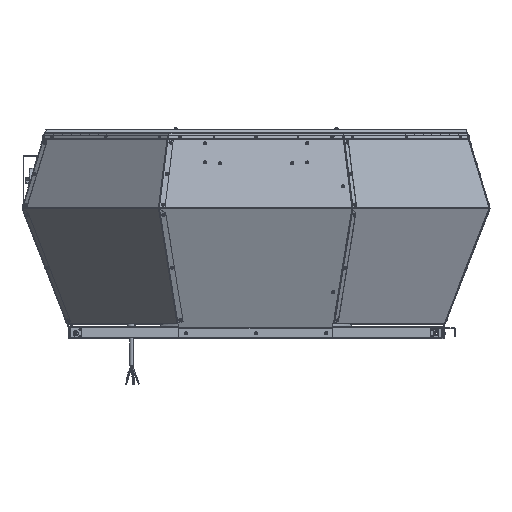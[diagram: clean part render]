
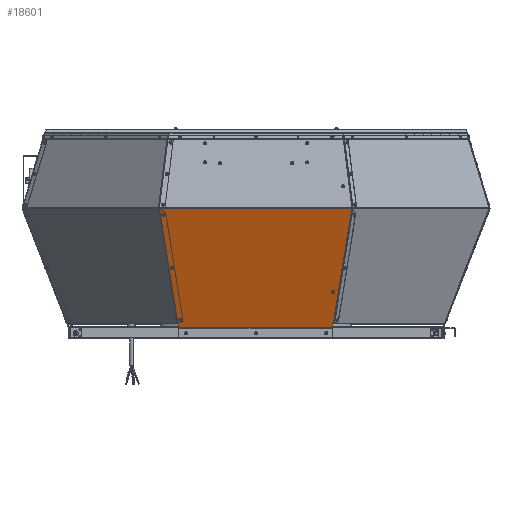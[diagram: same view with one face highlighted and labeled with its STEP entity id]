
A CAD part, top view. The second image highlights one B-rep face of the part: STEP entity #18601.
In plain terms, the highlighted planar face has unit normal (0, -0.362, 0.932).
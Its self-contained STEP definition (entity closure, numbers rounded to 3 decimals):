
#5218 = DIRECTION ( 'NONE',  ( 0., 0.932, 0.362 ) ) ;
#5221 = DIRECTION ( 'NONE',  ( 0., 0.362, -0.932 ) ) ;
#5235 = CARTESIAN_POINT ( 'NONE',  ( 240.82, 299.784, 582.628 ) ) ;
#5252 = PLANE ( 'NONE',  #103892 ) ;
#5333 = CARTESIAN_POINT ( 'NONE',  ( 238.407, 298.935, 582.298 ) ) ;
#6261 = CARTESIAN_POINT ( 'NONE',  ( -188.422, 22.769, 474.903 ) ) ;
#8466 = CARTESIAN_POINT ( 'NONE',  ( 190.117, 2.287, 466.938 ) ) ;
#8618 = CARTESIAN_POINT ( 'NONE',  ( -230.586, 280.612, 575.172 ) ) ;
#9002 = LINE ( 'NONE', #97878, #9008 ) ;
#9008 = VECTOR ( 'NONE', #97857, 1000. ) ;
#9332 = CARTESIAN_POINT ( 'NONE',  ( -193.022, 2.287, 466.938 ) ) ;
#9419 = CARTESIAN_POINT ( 'NONE',  ( -240.82, 299.018, 582.33 ) ) ;
#9541 = CARTESIAN_POINT ( 'NONE',  ( 238.341, 299.009, 582.326 ) ) ;
#18059 = VERTEX_POINT ( 'NONE', #142052 ) ;
#18334 = VERTEX_POINT ( 'NONE', #142895 ) ;
#18405 = VERTEX_POINT ( 'NONE', #5333 ) ;
#18601 = ADVANCED_FACE ( 'NONE', ( #190816, #190807, #190823, #190792, #190829 ), #5252, .F. ) ;
#19220 = VERTEX_POINT ( 'NONE', #179585 ) ;
#47233 = EDGE_LOOP ( 'NONE', ( #58705, #58644 ) ) ;
#47635 = EDGE_LOOP ( 'NONE', ( #57902, #57827 ) ) ;
#47772 = EDGE_LOOP ( 'NONE', ( #58370, #58362, #58345, #58490, #58396, #58287, #58506, #58605 ) ) ;
#47829 = EDGE_LOOP ( 'NONE', ( #58352, #58385 ) ) ;
#54977 = CIRCLE ( 'NONE', #189827, 2.1 ) ;
#55101 = LINE ( 'NONE', #158491, #55107 ) ;
#55107 = VECTOR ( 'NONE', #158467, 1000. ) ;
#55114 = LINE ( 'NONE', #158510, #55127 ) ;
#55127 = VECTOR ( 'NONE', #158524, 1000. ) ;
#55187 = LINE ( 'NONE', #158675, #55191 ) ;
#55191 = VECTOR ( 'NONE', #158677, 1000. ) ;
#55401 = CIRCLE ( 'NONE', #190071, 2.1 ) ;
#55470 = CIRCLE ( 'NONE', #190097, 2.1 ) ;
#55474 = CIRCLE ( 'NONE', #190095, 2.1 ) ;
#55487 = CIRCLE ( 'NONE', #190108, 2.1 ) ;
#55512 = LINE ( 'NONE', #113248, #55517 ) ;
#55517 = VECTOR ( 'NONE', #113249, 1000. ) ;
#55544 = CIRCLE ( 'NONE', #190146, 2.1 ) ;
#55568 = LINE ( 'NONE', #113306, #55570 ) ;
#55570 = VECTOR ( 'NONE', #113307, 1000. ) ;
#55598 = CIRCLE ( 'NONE', #190176, 2.1 ) ;
#55637 = LINE ( 'NONE', #113451, #55643 ) ;
#55643 = VECTOR ( 'NONE', #113454, 1000. ) ;
#55647 = LINE ( 'NONE', #113629, #55709 ) ;
#55709 = VECTOR ( 'NONE', #113634, 1000. ) ;
#55742 = CIRCLE ( 'NONE', #190217, 2.1 ) ;
#57827 = ORIENTED_EDGE ( 'NONE', *, *, #144281, .F. ) ;
#57902 = ORIENTED_EDGE ( 'NONE', *, *, #144134, .F. ) ;
#58180 = ORIENTED_EDGE ( 'NONE', *, *, #143697, .T. ) ;
#58287 = ORIENTED_EDGE ( 'NONE', *, *, #143861, .F. ) ;
#58345 = ORIENTED_EDGE ( 'NONE', *, *, #143813, .F. ) ;
#58347 = ORIENTED_EDGE ( 'NONE', *, *, #144088, .T. ) ;
#58352 = ORIENTED_EDGE ( 'NONE', *, *, #144077, .F. ) ;
#58362 = ORIENTED_EDGE ( 'NONE', *, *, #143802, .F. ) ;
#58370 = ORIENTED_EDGE ( 'NONE', *, *, #144210, .F. ) ;
#58385 = ORIENTED_EDGE ( 'NONE', *, *, #144075, .F. ) ;
#58396 = ORIENTED_EDGE ( 'NONE', *, *, #144259, .F. ) ;
#58490 = ORIENTED_EDGE ( 'NONE', *, *, #144150, .T. ) ;
#58506 = ORIENTED_EDGE ( 'NONE', *, *, #143603, .T. ) ;
#58605 = ORIENTED_EDGE ( 'NONE', *, *, #144112, .F. ) ;
#58644 = ORIENTED_EDGE ( 'NONE', *, *, #144190, .F. ) ;
#58705 = ORIENTED_EDGE ( 'NONE', *, *, #144035, .F. ) ;
#67236 = CARTESIAN_POINT ( 'NONE',  ( -188.422, 20.812, 474.142 ) ) ;
#67240 = DIRECTION ( 'NONE',  ( 0., -0.362, 0.932 ) ) ;
#67242 = DIRECTION ( 'NONE',  ( 0., -0.932, -0.362 ) ) ;
#97857 = DIRECTION ( 'NONE',  ( -1., 0., 0. ) ) ;
#97878 = CARTESIAN_POINT ( 'NONE',  ( 240.82, 299.018, 582.33 ) ) ;
#101745 = EDGE_LOOP ( 'NONE', ( #58347, #58180 ) ) ;
#103892 = AXIS2_PLACEMENT_3D ( 'NONE', #5235, #5221, #5218 ) ;
#107471 = VERTEX_POINT ( 'NONE', #8466 ) ;
#107591 = VERTEX_POINT ( 'NONE', #8618 ) ;
#108592 = VERTEX_POINT ( 'NONE', #9332 ) ;
#108689 = VERTEX_POINT ( 'NONE', #9419 ) ;
#108787 = VERTEX_POINT ( 'NONE', #9541 ) ;
#109043 = VERTEX_POINT ( 'NONE', #162369 ) ;
#109734 = VERTEX_POINT ( 'NONE', #163220 ) ;
#110040 = VERTEX_POINT ( 'NONE', #163579 ) ;
#110203 = VERTEX_POINT ( 'NONE', #6261 ) ;
#113138 = CARTESIAN_POINT ( 'NONE',  ( -230.586, 282.569, 575.933 ) ) ;
#113139 = DIRECTION ( 'NONE',  ( 0., -0.362, 0.932 ) ) ;
#113140 = DIRECTION ( 'NONE',  ( 0., -0.932, -0.362 ) ) ;
#113190 = CARTESIAN_POINT ( 'NONE',  ( -209.504, 151.691, 525.037 ) ) ;
#113191 = DIRECTION ( 'NONE',  ( 0., -0.362, 0.932 ) ) ;
#113192 = DIRECTION ( 'NONE',  ( 0., -0.932, -0.362 ) ) ;
#113193 = CARTESIAN_POINT ( 'NONE',  ( -209.504, 151.691, 525.037 ) ) ;
#113194 = DIRECTION ( 'NONE',  ( 0., -0.362, 0.932 ) ) ;
#113195 = DIRECTION ( 'NONE',  ( 0., -0.932, -0.362 ) ) ;
#113214 = CARTESIAN_POINT ( 'NONE',  ( 191.739, 90.828, 501.369 ) ) ;
#113215 = DIRECTION ( 'NONE',  ( 0., 0.362, -0.932 ) ) ;
#113216 = DIRECTION ( 'NONE',  ( 0., 0.932, 0.362 ) ) ;
#113248 = CARTESIAN_POINT ( 'NONE',  ( -193.022, 2.287, 466.938 ) ) ;
#113249 = DIRECTION ( 'NONE',  ( -0.148, 0.922, 0.358 ) ) ;
#113281 = CARTESIAN_POINT ( 'NONE',  ( -188.422, 20.812, 474.142 ) ) ;
#113282 = DIRECTION ( 'NONE',  ( 0., -0.362, 0.932 ) ) ;
#113283 = DIRECTION ( 'NONE',  ( 0., -0.932, -0.362 ) ) ;
#113306 = CARTESIAN_POINT ( 'NONE',  ( 190.675, 2.616, 467.065 ) ) ;
#113307 = DIRECTION ( 'NONE',  ( 0.148, 0.922, 0.358 ) ) ;
#113389 = CARTESIAN_POINT ( 'NONE',  ( -230.586, 282.569, 575.933 ) ) ;
#113390 = DIRECTION ( 'NONE',  ( 0., -0.362, 0.932 ) ) ;
#113392 = DIRECTION ( 'NONE',  ( 0., -0.932, -0.362 ) ) ;
#113451 = CARTESIAN_POINT ( 'NONE',  ( 240.82, 2.287, 466.938 ) ) ;
#113454 = DIRECTION ( 'NONE',  ( -1., 0., 0. ) ) ;
#113629 = CARTESIAN_POINT ( 'NONE',  ( 238.341, 299.009, 582.326 ) ) ;
#113634 = DIRECTION ( 'NONE',  ( 0.636, -0.72, -0.28 ) ) ;
#142052 = CARTESIAN_POINT ( 'NONE',  ( 191.739, 88.871, 500.608 ) ) ;
#142210 = CARTESIAN_POINT ( 'NONE',  ( -230.586, 284.526, 576.694 ) ) ;
#142895 = CARTESIAN_POINT ( 'NONE',  ( 238.341, 299.018, 582.33 ) ) ;
#143603 = EDGE_CURVE ( 'NONE', #18334, #108689, #9002, .T. ) ;
#143697 = EDGE_CURVE ( 'NONE', #18059, #194340, #54977, .T. ) ;
#143802 = EDGE_CURVE ( 'NONE', #110040, #107471, #55101, .T. ) ;
#143813 = EDGE_CURVE ( 'NONE', #19220, #110040, #55114, .T. ) ;
#143861 = EDGE_CURVE ( 'NONE', #18334, #108787, #55187, .T. ) ;
#144035 = EDGE_CURVE ( 'NONE', #107591, #191305, #55401, .T. ) ;
#144075 = EDGE_CURVE ( 'NONE', #109734, #191634, #55474, .T. ) ;
#144077 = EDGE_CURVE ( 'NONE', #191634, #109734, #55470, .T. ) ;
#144088 = EDGE_CURVE ( 'NONE', #194340, #18059, #55487, .T. ) ;
#144112 = EDGE_CURVE ( 'NONE', #108592, #108689, #55512, .T. ) ;
#144134 = EDGE_CURVE ( 'NONE', #109043, #110203, #55544, .T. ) ;
#144150 = EDGE_CURVE ( 'NONE', #19220, #18405, #55568, .T. ) ;
#144190 = EDGE_CURVE ( 'NONE', #191305, #107591, #55598, .T. ) ;
#144210 = EDGE_CURVE ( 'NONE', #107471, #108592, #55637, .T. ) ;
#144259 = EDGE_CURVE ( 'NONE', #108787, #18405, #55647, .T. ) ;
#144281 = EDGE_CURVE ( 'NONE', #110203, #109043, #55742, .T. ) ;
#158202 = CARTESIAN_POINT ( 'NONE',  ( 191.739, 90.828, 501.369 ) ) ;
#158203 = DIRECTION ( 'NONE',  ( 0., 0.362, -0.932 ) ) ;
#158204 = DIRECTION ( 'NONE',  ( 0., 0.932, 0.362 ) ) ;
#158467 = DIRECTION ( 'NONE',  ( 0., -0.932, -0.362 ) ) ;
#158491 = CARTESIAN_POINT ( 'NONE',  ( 190.117, -21.935, 457.518 ) ) ;
#158510 = CARTESIAN_POINT ( 'NONE',  ( 190.117, 13.388, 471.255 ) ) ;
#158524 = DIRECTION ( 'NONE',  ( -1., 0., 0. ) ) ;
#158675 = CARTESIAN_POINT ( 'NONE',  ( 238.341, 299.009, 582.326 ) ) ;
#158677 = DIRECTION ( 'NONE',  ( 0., -0.932, -0.362 ) ) ;
#162369 = CARTESIAN_POINT ( 'NONE',  ( -188.422, 18.855, 473.38 ) ) ;
#163220 = CARTESIAN_POINT ( 'NONE',  ( -209.504, 153.648, 525.799 ) ) ;
#163579 = CARTESIAN_POINT ( 'NONE',  ( 190.117, 13.388, 471.255 ) ) ;
#179585 = CARTESIAN_POINT ( 'NONE',  ( 192.41, 13.388, 471.255 ) ) ;
#189827 = AXIS2_PLACEMENT_3D ( 'NONE', #158202, #158203, #158204 ) ;
#190071 = AXIS2_PLACEMENT_3D ( 'NONE', #113138, #113139, #113140 ) ;
#190095 = AXIS2_PLACEMENT_3D ( 'NONE', #113190, #113191, #113192 ) ;
#190097 = AXIS2_PLACEMENT_3D ( 'NONE', #113193, #113194, #113195 ) ;
#190108 = AXIS2_PLACEMENT_3D ( 'NONE', #113214, #113215, #113216 ) ;
#190146 = AXIS2_PLACEMENT_3D ( 'NONE', #113281, #113282, #113283 ) ;
#190176 = AXIS2_PLACEMENT_3D ( 'NONE', #113389, #113390, #113392 ) ;
#190217 = AXIS2_PLACEMENT_3D ( 'NONE', #67236, #67240, #67242 ) ;
#190792 = FACE_BOUND ( 'NONE', #47829, .T. ) ;
#190807 = FACE_BOUND ( 'NONE', #47635, .T. ) ;
#190816 = FACE_BOUND ( 'NONE', #101745, .T. ) ;
#190823 = FACE_BOUND ( 'NONE', #47233, .T. ) ;
#190829 = FACE_OUTER_BOUND ( 'NONE', #47772, .T. ) ;
#191305 = VERTEX_POINT ( 'NONE', #142210 ) ;
#191634 = VERTEX_POINT ( 'NONE', #216719 ) ;
#194340 = VERTEX_POINT ( 'NONE', #217999 ) ;
#216719 = CARTESIAN_POINT ( 'NONE',  ( -209.504, 149.733, 524.276 ) ) ;
#217999 = CARTESIAN_POINT ( 'NONE',  ( 191.739, 92.785, 502.13 ) ) ;
